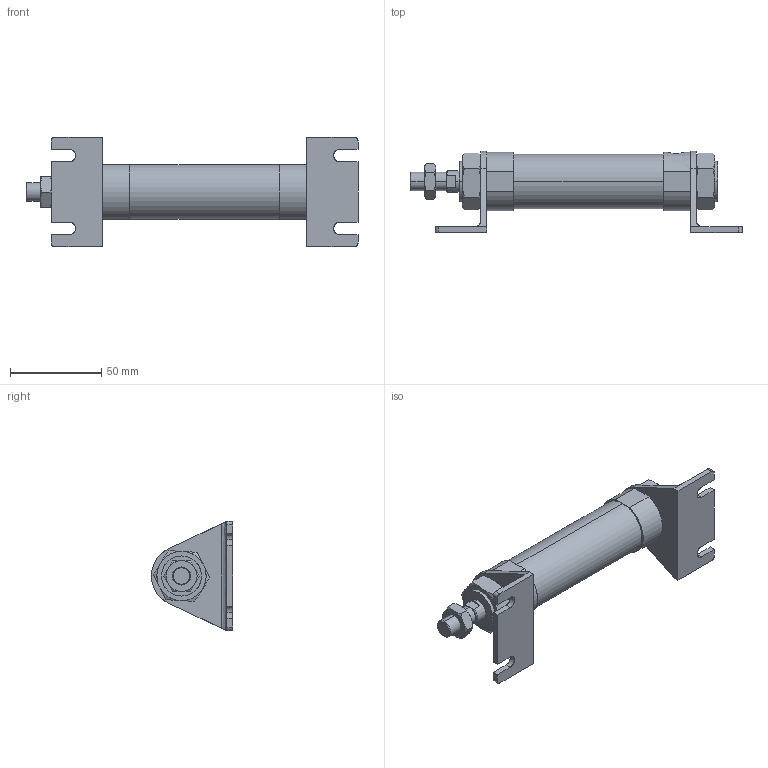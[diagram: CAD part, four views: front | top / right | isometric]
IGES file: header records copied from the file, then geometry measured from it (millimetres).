
Start section: SolidWorks IGES file using analytic representation for surfaces
Global section: file name: C:\Users\Toshiba\Desktop\J#1-25-25-L.IGS; native system: SolidWorks 2014; preprocessor: SolidWorks 2014; author: Toshiba; date: 160310.084558; units: millimetre
Bounding box: 182.2 x 44.5 x 60 mm (x, y, z)
Surface area: 34180.9 mm2 (no closed solid volume)
Topology: 0 solids, 0 shells, 167 faces, 2718 edges, 2716 vertices
Faces by surface type: bspline 111, revolution 56
